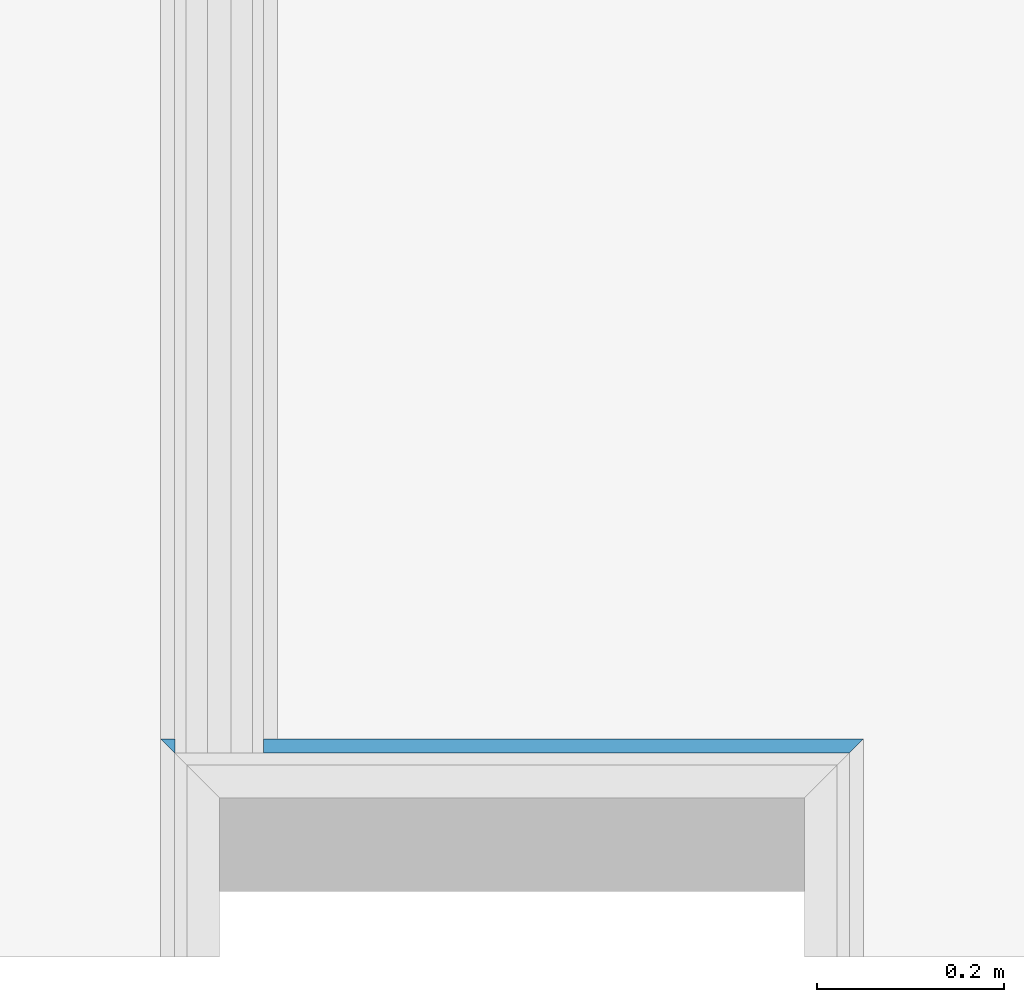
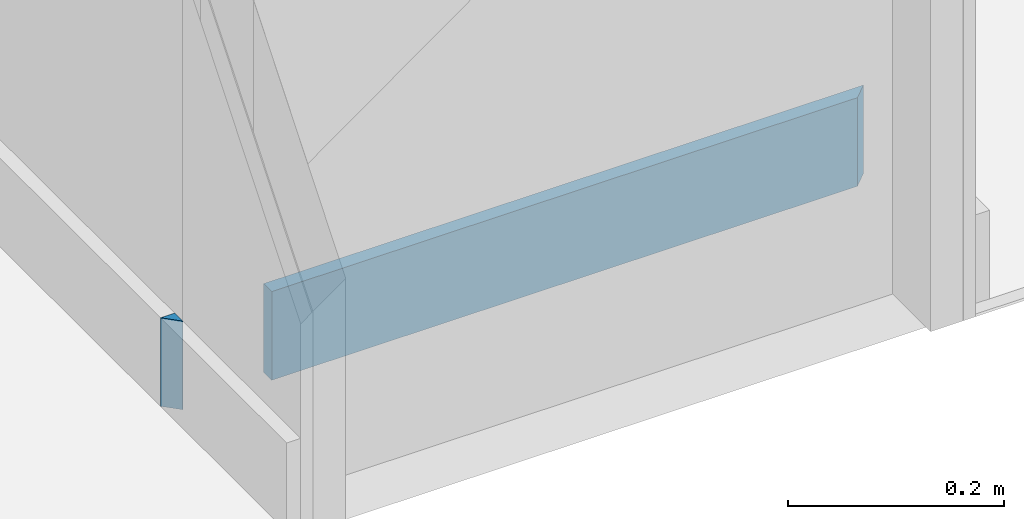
# One storey, part 36 of 85: 2 building element parts, 1 element without a shape of its own.
"""IFC2X3 building model written with IfcOpenShell, lengths in metres."""

from ifc_helpers import new_model, entity, si_unit, converted_unit, derived_unit, money_unit, direction, frame, origin_with_axes, place, context, subcontext, project, spatial, polyline, outline, extrude, material, type_object, element, aggregate, save


model = new_model("IFC2X3")

# Units and contexts
model_context = context("Model", 3, precision=1e-05, world=origin_with_axes(), true_north=direction((0.0, 1.0)))
body_context = subcontext(model_context, "Body", "Model", "MODEL_VIEW", scale=1.0)
ifc_project = project(units=[si_unit("LENGTHUNIT", "METRE"), si_unit("AREAUNIT", "SQUARE_METRE"), si_unit("VOLUMEUNIT", "CUBIC_METRE"), si_unit("ABSORBEDDOSEUNIT", "GRAY"), si_unit("AMOUNTOFSUBSTANCEUNIT", "MOLE"), si_unit("DOSEEQUIVALENTUNIT", "SIEVERT"), si_unit("ELECTRICCAPACITANCEUNIT", "FARAD"), si_unit("ELECTRICCHARGEUNIT", "COULOMB"), si_unit("ELECTRICCONDUCTANCEUNIT", "SIEMENS"), si_unit("ELECTRICCURRENTUNIT", "AMPERE"), si_unit("ELECTRICRESISTANCEUNIT", "OHM"), si_unit("ELECTRICVOLTAGEUNIT", "VOLT"), si_unit("ENERGYUNIT", "JOULE"), si_unit("FORCEUNIT", "NEWTON"), si_unit("FREQUENCYUNIT", "HERTZ"), si_unit("ILLUMINANCEUNIT", "LUX"), si_unit("INDUCTANCEUNIT", "HENRY"), si_unit("LUMINOUSFLUXUNIT", "LUMEN"), si_unit("LUMINOUSINTENSITYUNIT", "CANDELA"), si_unit("MAGNETICFLUXDENSITYUNIT", "TESLA"), si_unit("MAGNETICFLUXUNIT", "WEBER"), si_unit("MASSUNIT", "GRAM"), converted_unit("PLANEANGLEUNIT", "degree", entity("IfcReal", 0.0174532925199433), si_unit("PLANEANGLEUNIT", "RADIAN"), dimensions=[0, 0, 0, 0, 0, 0, 0]), si_unit("POWERUNIT", "WATT"), si_unit("PRESSUREUNIT", "PASCAL"), si_unit("RADIOACTIVITYUNIT", "BECQUEREL"), si_unit("SOLIDANGLEUNIT", "STERADIAN"), si_unit("THERMODYNAMICTEMPERATUREUNIT", "KELVIN"), si_unit("TIMEUNIT", "SECOND"), derived_unit("ACCELERATIONUNIT", [(si_unit("LENGTHUNIT", "METRE"), 1), (si_unit("TIMEUNIT", "SECOND"), -2)]), derived_unit("ANGULARVELOCITYUNIT", [(converted_unit("PLANEANGLEUNIT", "degree", entity("IfcReal", 0.0174532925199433), si_unit("PLANEANGLEUNIT", "RADIAN"), dimensions=[0, 0, 0, 0, 0, 0, 0]), 1), (si_unit("TIMEUNIT", "SECOND"), -1)]), derived_unit("CURVATUREUNIT", [(converted_unit("PLANEANGLEUNIT", "degree", entity("IfcReal", 0.0174532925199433), si_unit("PLANEANGLEUNIT", "RADIAN"), dimensions=[0, 0, 0, 0, 0, 0, 0]), 1), (si_unit("LENGTHUNIT", "METRE"), -1)]), derived_unit("DYNAMICVISCOSITYUNIT", [(si_unit("PRESSUREUNIT", "PASCAL"), 1), (si_unit("TIMEUNIT", "SECOND"), 1)]), derived_unit("HEATFLUXDENSITYUNIT", [(si_unit("POWERUNIT", "WATT"), 1), (si_unit("LENGTHUNIT", "METRE"), -2)]), derived_unit("HEATINGVALUEUNIT", [(si_unit("ENERGYUNIT", "JOULE"), 1), (si_unit("MASSUNIT", "GRAM"), -1)]), derived_unit("INTEGERCOUNTRATEUNIT", [(si_unit("TIMEUNIT", "SECOND"), -1)]), derived_unit("IONCONCENTRATIONUNIT", [(si_unit("MASSUNIT", "GRAM"), 1), (si_unit("VOLUMEUNIT", "CUBIC_METRE"), -1)]), derived_unit("ISOTHERMALMOISTURECAPACITYUNIT", [(si_unit("VOLUMEUNIT", "CUBIC_METRE"), 1), (si_unit("MASSUNIT", "GRAM"), -1)]), derived_unit("KINEMATICVISCOSITYUNIT", [(si_unit("AREAUNIT", "SQUARE_METRE"), 1), (si_unit("TIMEUNIT", "SECOND"), -1)]), derived_unit("LINEARFORCEUNIT", [(si_unit("FORCEUNIT", "NEWTON"), 1), (si_unit("LENGTHUNIT", "METRE"), -1)]), derived_unit("LINEARMOMENTUNIT", [(si_unit("FORCEUNIT", "NEWTON"), 1), (si_unit("LENGTHUNIT", "METRE"), -1)]), derived_unit("LINEARSTIFFNESSUNIT", [(si_unit("FORCEUNIT", "NEWTON"), 1), (si_unit("LENGTHUNIT", "METRE"), -1)]), derived_unit("LINEARVELOCITYUNIT", [(si_unit("LENGTHUNIT", "METRE"), 1), (si_unit("TIMEUNIT", "SECOND"), -1)]), derived_unit("LUMINOUSINTENSITYDISTRIBUTIONUNIT", [(si_unit("LUMINOUSINTENSITYUNIT", "CANDELA"), 1), (si_unit("LUMINOUSFLUXUNIT", "LUMEN"), -1)]), derived_unit("MASSDENSITYUNIT", [(si_unit("MASSUNIT", "GRAM"), 1), (si_unit("VOLUMEUNIT", "CUBIC_METRE"), -1)]), derived_unit("MASSFLOWRATEUNIT", [(si_unit("MASSUNIT", "GRAM"), 1), (si_unit("TIMEUNIT", "SECOND"), -1)]), derived_unit("MASSPERLENGTHUNIT", [(si_unit("MASSUNIT", "GRAM"), 1), (si_unit("LENGTHUNIT", "METRE"), -1)]), derived_unit("MODULUSOFELASTICITYUNIT", [(si_unit("FORCEUNIT", "NEWTON"), 1), (si_unit("AREAUNIT", "SQUARE_METRE"), -1)]), derived_unit("MODULUSOFLINEARSUBGRADEREACTIONUNIT", [(si_unit("FORCEUNIT", "NEWTON"), 1), (si_unit("LENGTHUNIT", "METRE"), -2)]), derived_unit("MODULUSOFROTATIONALSUBGRADEREACTIONUNIT", [(si_unit("FORCEUNIT", "NEWTON"), 1), (si_unit("LENGTHUNIT", "METRE"), 1)]), derived_unit("MODULUSOFSUBGRADEREACTIONUNIT", [(si_unit("FORCEUNIT", "NEWTON"), 1), (si_unit("VOLUMEUNIT", "CUBIC_METRE"), -1)]), derived_unit("MOISTUREDIFFUSIVITYUNIT", [(si_unit("VOLUMEUNIT", "CUBIC_METRE"), 1), (si_unit("TIMEUNIT", "SECOND"), -1)]), derived_unit("MOLECULARWEIGHTUNIT", [(si_unit("MASSUNIT", "GRAM"), 1), (si_unit("AMOUNTOFSUBSTANCEUNIT", "MOLE"), -1)]), derived_unit("PLANARFORCEUNIT", [(si_unit("FORCEUNIT", "NEWTON"), 1), (si_unit("LENGTHUNIT", "METRE"), -2)]), derived_unit("ROTATIONALFREQUENCYUNIT", [(si_unit("TIMEUNIT", "SECOND"), -1)]), derived_unit("ROTATIONALMASSUNIT", [(si_unit("MASSUNIT", "GRAM"), 1), (si_unit("LENGTHUNIT", "METRE"), 2)]), derived_unit("ROTATIONALSTIFFNESSUNIT", [(si_unit("FORCEUNIT", "NEWTON"), 1), (si_unit("LENGTHUNIT", "METRE"), 1), (converted_unit("PLANEANGLEUNIT", "degree", entity("IfcReal", 0.0174532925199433), si_unit("PLANEANGLEUNIT", "RADIAN"), dimensions=[0, 0, 0, 0, 0, 0, 0]), -1)]), derived_unit("SECTIONAREAINTEGRALUNIT", [(si_unit("LENGTHUNIT", "METRE"), 5)]), derived_unit("SECTIONMODULUSUNIT", [(si_unit("LENGTHUNIT", "METRE"), 3)]), derived_unit("SHEARMODULUSUNIT", [(si_unit("FORCEUNIT", "NEWTON"), 1), (si_unit("AREAUNIT", "SQUARE_METRE"), -1)]), derived_unit("SOUNDPOWERUNIT", [(si_unit("ENERGYUNIT", "JOULE"), 1), (si_unit("TIMEUNIT", "SECOND"), -1)]), derived_unit("SPECIFICHEATCAPACITYUNIT", [(si_unit("FORCEUNIT", "NEWTON"), 1), (si_unit("MASSUNIT", "GRAM"), -1), (si_unit("THERMODYNAMICTEMPERATUREUNIT", "KELVIN"), -1)]), derived_unit("TEMPERATUREGRADIENTUNIT", [(si_unit("THERMODYNAMICTEMPERATUREUNIT", "KELVIN"), 1), (si_unit("LENGTHUNIT", "METRE"), -1)]), derived_unit("THERMALADMITTANCEUNIT", [(si_unit("POWERUNIT", "WATT"), 1), (si_unit("AREAUNIT", "SQUARE_METRE"), -1), (si_unit("THERMODYNAMICTEMPERATUREUNIT", "KELVIN"), -1)]), derived_unit("THERMALCONDUCTANCEUNIT", [(si_unit("POWERUNIT", "WATT"), 1), (si_unit("LENGTHUNIT", "METRE"), -1), (si_unit("THERMODYNAMICTEMPERATUREUNIT", "KELVIN"), -1)]), derived_unit("THERMALEXPANSIONCOEFFICIENTUNIT", [(si_unit("THERMODYNAMICTEMPERATUREUNIT", "KELVIN"), -1)]), derived_unit("THERMALRESISTANCEUNIT", [(si_unit("AREAUNIT", "SQUARE_METRE"), 1), (si_unit("POWERUNIT", "WATT"), -1)]), derived_unit("THERMALTRANSMITTANCEUNIT", [(si_unit("POWERUNIT", "WATT"), 1), (si_unit("AREAUNIT", "SQUARE_METRE"), -1), (si_unit("THERMODYNAMICTEMPERATUREUNIT", "KELVIN"), -1)]), derived_unit("TORQUEUNIT", [(si_unit("FORCEUNIT", "NEWTON"), 1), (si_unit("LENGTHUNIT", "METRE"), 1)]), derived_unit("VAPORPERMEABILITYUNIT", [(si_unit("MASSUNIT", "GRAM"), 1), (si_unit("TIMEUNIT", "SECOND"), -1)]), derived_unit("VOLUMETRICFLOWRATEUNIT", [(si_unit("VOLUMEUNIT", "CUBIC_METRE"), 1), (si_unit("TIMEUNIT", "SECOND"), -1)]), derived_unit("WARPINGCONSTANTUNIT", [(si_unit("LENGTHUNIT", "METRE"), 6)]), derived_unit("WARPINGMOMENTUNIT", [(si_unit("FORCEUNIT", "NEWTON"), 1), (si_unit("LENGTHUNIT", "METRE"), 2)]), money_unit("GBP")], contexts=[model_context])

# Site, building, storey
site_placement = place(None, origin_with_axes())
site = spatial("IfcSite", under=ifc_project, at=site_placement, Name="Site", CompositionType="ELEMENT")
building_placement = place(site_placement, origin_with_axes())
building = spatial("IfcBuilding", under=site, at=building_placement, Name="Building01", CompositionType="ELEMENT")
storey_placement = place(building_placement, frame((0.0, 0.0, 12.13), z_axis=(0.0, 0.0, 1.0), x_axis=(1.0, 0.0, 0.0)))
storey = spatial("IfcBuildingStorey", under=building, at=storey_placement, Name="3F", CompositionType="ELEMENT", Elevation=12.13)

# Wall, building element parts
wall_type = type_object("IfcWallType", Name="SHE_A-Walls_Type06d_ExternalWallInsulation_48mm", PredefinedType="NOTDEFINED")
wall_placement = place(storey_placement, frame((19.763, 0.27, 0.0), z_axis=(0.0, 0.0, 1.0), x_axis=(1.0, 0.0, 0.0)))
wall = element("IfcWall", 1, at=wall_placement, inside=storey, type_object=wall_type, Name="6D", ObjectType="SHE_A-Walls_Type06d_ExternalWallInsulation_48mm")
ifc_material = material(Name="A_BSUK_Walls_Timber")
placement = place(wall_placement, origin_with_axes())
building_element_part_1 = element("IfcBuildingElementPart", 2, at=placement, material=ifc_material, Name="3", context=body_context, shape_type="SweptSolid", body=[
    extrude(outline(polyline([(-0.063, 0.063), (-0.048, 0.048), (-0.047717, 0.048), (-0.047717, 0.063), (-0.063, 0.063)])), frame((0.0, 0.0, 0.015), z_axis=(0.0, 0.0, 1.0), x_axis=(1.0, 0.0, 0.0)), (0.0, 0.0, 1.0), 0.1),
])
building_element_part_2 = element("IfcBuildingElementPart", 3, at=placement, material=ifc_material, Name="4", context=body_context, shape_type="SweptSolid", body=[
    extrude(outline(polyline([(0.687, 0.063), (0.047, 0.063), (0.047, 0.048), (0.672, 0.048), (0.687, 0.063)])), frame((0.0, 0.0, 0.015), z_axis=(0.0, 0.0, 1.0), x_axis=(1.0, 0.0, 0.0)), (0.0, 0.0, 1.0), 0.1),
])
aggregate(wall, [building_element_part_1, building_element_part_2])

save(model, "model.ifc")
